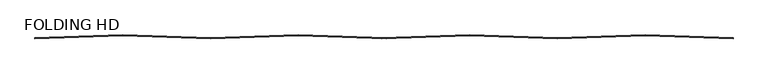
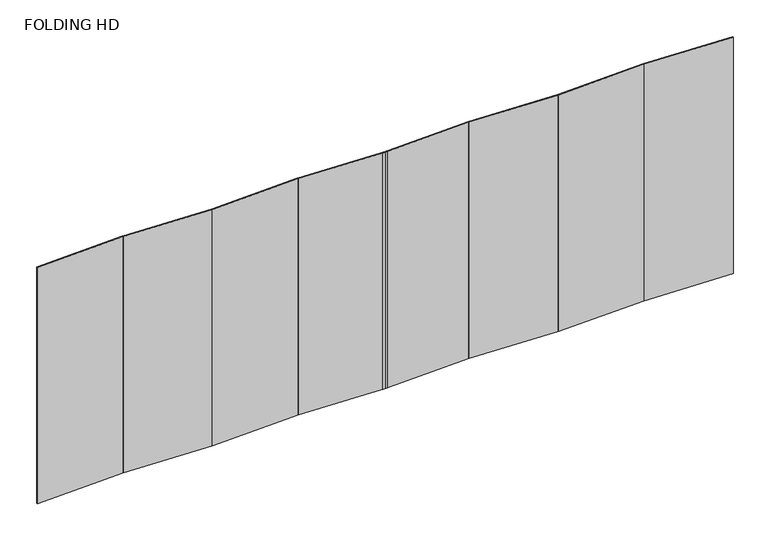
"""IFC4 building model written with IfcOpenShell, lengths in millimetres: plate geometry, FOLDING HD : FOLDING HD-90-2°."""

from ifc_helpers import new_model, si_unit, origin, origin_with_axes, place, context, project, spatial, polyline, outline, extrude, source, transform, mapped, element, save


def folding_hd_d22e76f5(model_context):
    return source(origin(), model_context, "Body", "SweptSolid", [
        extrude(outline(polyline([(2675.5482557, 31.4095471), (1776.0965114, 0.0), (1775.7475164, 9.9939083), (2675.1992607, 41.4034553), (2675.5482557, 31.4095471)])), origin_with_axes(), (0.0, 0.0, 1.0), 2570.0),
        extrude(outline(polyline([(2675.5482557, 31.409547), (2675.8972506, 41.4034553), (3575.348995, 9.9939083), (3575.0, 0.0), (2675.5482557, 31.409547)])), origin_with_axes(), (0.0, 0.0, 1.0), 2570.0),
        extrude(outline(polyline([(876.644767, 31.409547), (876.993762, 41.4034553), (1776.4455063, 9.9939083), (1776.0965114, 0.0), (876.644767, 31.409547)])), origin_with_axes(), (0.0, 0.0, 1.0), 2570.0),
        extrude(outline(polyline([(876.644767, 31.409547), (-22.8069773, 0.0), (-23.1559722, 9.9939083), (876.2957721, 41.4034553), (876.644767, 31.409547)])), origin_with_axes(), (0.0, 0.0, 1.0), 2570.0),
        extrude(outline(polyline([(-876.644767, 31.409547), (-1776.0965114, 0.0), (-1776.4455063, 9.9939083), (-876.993762, 41.4034553), (-876.644767, 31.409547)])), origin_with_axes(), (0.0, 0.0, 1.0), 2570.0),
        extrude(outline(polyline([(-876.644767, 31.409547), (-876.2957721, 41.4034553), (23.1559722, 9.9939083), (22.8069773, 0.0), (-876.644767, 31.409547)])), origin_with_axes(), (0.0, 0.0, 1.0), 2570.0),
        extrude(outline(polyline([(-2675.5482557, 31.409547), (-2675.1992607, 41.4034553), (-1775.7475164, 9.9939083), (-1776.0965114, 0.0), (-2675.5482557, 31.409547)])), origin_with_axes(), (0.0, 0.0, 1.0), 2570.0),
        extrude(outline(polyline([(-2675.5482557, 31.409547), (-3575.0, 0.0), (-3575.348995, 9.9939083), (-2675.8972506, 41.4034553), (-2675.5482557, 31.409547)])), origin_with_axes(), (0.0, 0.0, 1.0), 2570.0),
    ])


if __name__ == "__main__":
    model = new_model("IFC4")
    model_context = context("Model", 3, world=origin())
    ifc_project = project(units=[si_unit("LENGTHUNIT", "METRE", prefix="MILLI")], contexts=[model_context])
    site = spatial("IfcSite", under=ifc_project)
    building = spatial("IfcBuilding", under=site)
    placement = place(None, origin())
    folding_hd_shape = folding_hd_d22e76f5(model_context)
    element("IfcPlate", 1, ObjectType="FOLDING HD : FOLDING HD-90-2°", at=placement, inside=building, context=model_context, shape_type="MappedRepresentation", body=[
        mapped(folding_hd_shape, transform((0.0, 0.0, 0.0), x_axis=(1.0, 0.0, 0.0), y_axis=(0.0, 1.0, 0.0), z_axis=(0.0, 0.0, 1.0))),
    ])
    save(model, "model.ifc")
